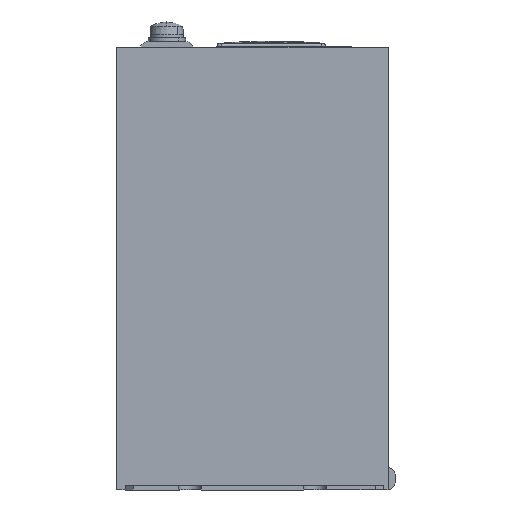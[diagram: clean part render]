
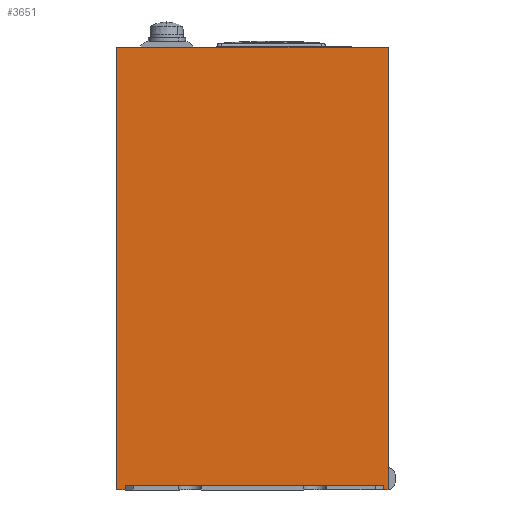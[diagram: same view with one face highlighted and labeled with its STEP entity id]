
A CAD part, front view. The second image highlights one B-rep face of the part: STEP entity #3651.
In plain terms, the highlighted planar face has unit normal (0, -1, 0).
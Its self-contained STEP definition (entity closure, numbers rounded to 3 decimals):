
#76 = LINE ( 'NONE', #5301, #1273 ) ;
#346 = LINE ( 'NONE', #2422, #6062 ) ;
#572 = CARTESIAN_POINT ( 'NONE',  ( -246.008, 0., 106. ) ) ;
#591 = LINE ( 'NONE', #1739, #6649 ) ;
#786 = ORIENTED_EDGE ( 'NONE', *, *, #5834, .F. ) ;
#861 = VERTEX_POINT ( 'NONE', #4926 ) ;
#906 = DIRECTION ( 'NONE',  ( -1., 0., 0. ) ) ;
#918 = EDGE_CURVE ( 'NONE', #6716, #2435, #2527, .T. ) ;
#1273 = VECTOR ( 'NONE', #4809, 1000. ) ;
#1275 = CARTESIAN_POINT ( 'NONE',  ( 65., 0., 106. ) ) ;
#1457 = ORIENTED_EDGE ( 'NONE', *, *, #4121, .F. ) ;
#1653 = LINE ( 'NONE', #572, #5536 ) ;
#1739 = CARTESIAN_POINT ( 'NONE',  ( 63.9, 0., 106. ) ) ;
#1776 = EDGE_CURVE ( 'NONE', #5930, #861, #3459, .T. ) ;
#1809 = ORIENTED_EDGE ( 'NONE', *, *, #6530, .F. ) ;
#1931 = CARTESIAN_POINT ( 'NONE',  ( -246.008, 0., 1. ) ) ;
#2065 = VERTEX_POINT ( 'NONE', #5373 ) ;
#2304 = DIRECTION ( 'NONE',  ( 0., -1., 0. ) ) ;
#2361 = AXIS2_PLACEMENT_3D ( 'NONE', #5561, #2304, #2442 ) ;
#2422 = CARTESIAN_POINT ( 'NONE',  ( 2., 0., 106. ) ) ;
#2423 = VECTOR ( 'NONE', #4518, 1000. ) ;
#2435 = VERTEX_POINT ( 'NONE', #3102 ) ;
#2442 = DIRECTION ( 'NONE',  ( 1., 0., 0. ) ) ;
#2527 = LINE ( 'NONE', #1931, #6224 ) ;
#2651 = ORIENTED_EDGE ( 'NONE', *, *, #918, .F. ) ;
#2728 = DIRECTION ( 'NONE',  ( 0., 0., 1. ) ) ;
#3102 = CARTESIAN_POINT ( 'NONE',  ( 2., 0., 1. ) ) ;
#3459 = LINE ( 'NONE', #4449, #2423 ) ;
#3651 = ADVANCED_FACE ( 'NONE', ( #3731 ), #6083, .T. ) ;
#3689 = EDGE_CURVE ( 'NONE', #2065, #4578, #4969, .T. ) ;
#3731 = FACE_OUTER_BOUND ( 'NONE', #5568, .T. ) ;
#3928 = ORIENTED_EDGE ( 'NONE', *, *, #1776, .F. ) ;
#3941 = CARTESIAN_POINT ( 'NONE',  ( 0., 0., 0. ) ) ;
#4121 = EDGE_CURVE ( 'NONE', #2435, #5454, #346, .T. ) ;
#4449 = CARTESIAN_POINT ( 'NONE',  ( 0., 0., 106. ) ) ;
#4491 = DIRECTION ( 'NONE',  ( 0., 0., -1. ) ) ;
#4503 = CARTESIAN_POINT ( 'NONE',  ( 65., 0., 0. ) ) ;
#4518 = DIRECTION ( 'NONE',  ( 0., 0., 1. ) ) ;
#4549 = DIRECTION ( 'NONE',  ( 0., 0., -1. ) ) ;
#4578 = VERTEX_POINT ( 'NONE', #4503 ) ;
#4747 = VECTOR ( 'NONE', #5199, 1000. ) ;
#4809 = DIRECTION ( 'NONE',  ( 1., 0., 0. ) ) ;
#4891 = ORIENTED_EDGE ( 'NONE', *, *, #6326, .T. ) ;
#4926 = CARTESIAN_POINT ( 'NONE',  ( 0., 0., 106. ) ) ;
#4969 = LINE ( 'NONE', #1275, #5719 ) ;
#4997 = CARTESIAN_POINT ( 'NONE',  ( 63.9, 0., 0. ) ) ;
#5039 = VERTEX_POINT ( 'NONE', #4997 ) ;
#5199 = DIRECTION ( 'NONE',  ( 1., 0., 0. ) ) ;
#5301 = CARTESIAN_POINT ( 'NONE',  ( -246.008, 0., 0. ) ) ;
#5373 = CARTESIAN_POINT ( 'NONE',  ( 65., 0., 106. ) ) ;
#5414 = CARTESIAN_POINT ( 'NONE',  ( 2., 0., 0. ) ) ;
#5454 = VERTEX_POINT ( 'NONE', #5414 ) ;
#5480 = DIRECTION ( 'NONE',  ( 1., 0., 0. ) ) ;
#5536 = VECTOR ( 'NONE', #5480, 1000. ) ;
#5561 = CARTESIAN_POINT ( 'NONE',  ( -246.008, 0., 106. ) ) ;
#5568 = EDGE_LOOP ( 'NONE', ( #5976, #6604, #1809, #3928, #4891, #1457, #2651, #786 ) ) ;
#5719 = VECTOR ( 'NONE', #4491, 1000. ) ;
#5826 = CARTESIAN_POINT ( 'NONE',  ( -246.008, 0., 0. ) ) ;
#5834 = EDGE_CURVE ( 'NONE', #5039, #6716, #591, .T. ) ;
#5930 = VERTEX_POINT ( 'NONE', #3941 ) ;
#5976 = ORIENTED_EDGE ( 'NONE', *, *, #6782, .T. ) ;
#6062 = VECTOR ( 'NONE', #4549, 1000. ) ;
#6083 = PLANE ( 'NONE',  #2361 ) ;
#6224 = VECTOR ( 'NONE', #906, 1000. ) ;
#6283 = LINE ( 'NONE', #5826, #4747 ) ;
#6326 = EDGE_CURVE ( 'NONE', #5930, #5454, #6283, .T. ) ;
#6530 = EDGE_CURVE ( 'NONE', #861, #2065, #1653, .T. ) ;
#6604 = ORIENTED_EDGE ( 'NONE', *, *, #3689, .F. ) ;
#6649 = VECTOR ( 'NONE', #2728, 1000. ) ;
#6716 = VERTEX_POINT ( 'NONE', #6734 ) ;
#6734 = CARTESIAN_POINT ( 'NONE',  ( 63.9, 0., 1. ) ) ;
#6782 = EDGE_CURVE ( 'NONE', #5039, #4578, #76, .T. ) ;
